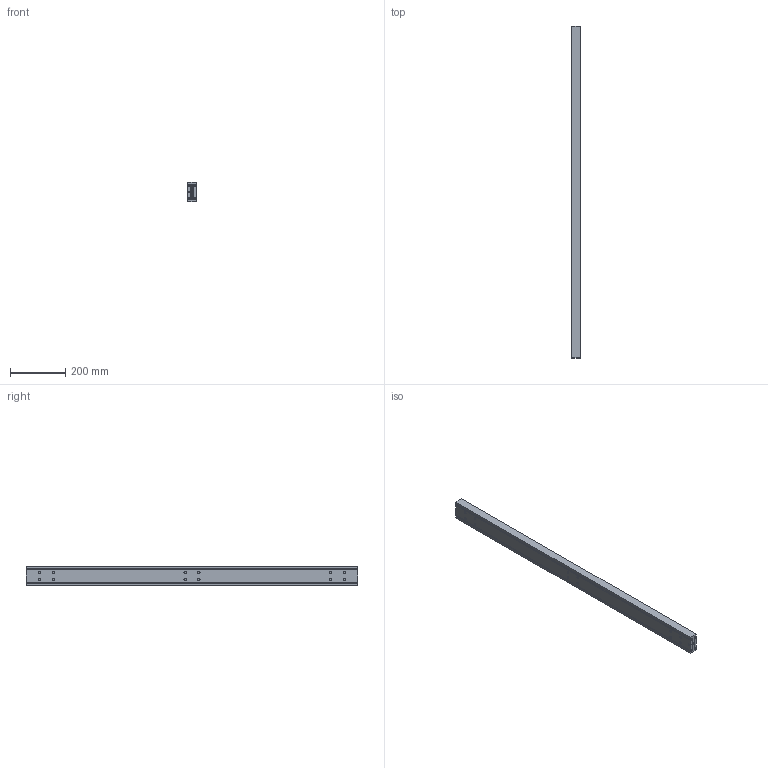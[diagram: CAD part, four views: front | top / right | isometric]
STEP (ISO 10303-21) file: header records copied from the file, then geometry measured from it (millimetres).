
FILE_DESCRIPTION(/* description */ (''),/* implementation_level */ '2;1');
FILE_NAME(/* name */ 'D:\Zeichnungen Schienen Komplett\MX-DTP70\MX-DTP70.120\MX-DTP70.120_eingefahren.step',/* time_stamp */ '2022-03-03T12:12:17+01:00',/* author */ ('zmile'),/* organization */ (''),/* preprocessor_version */ 'ST-DEVELOPER v16.13',/* originating_system */ 'AutoCAD Mechanical',/* authorisation */ '');
FILE_SCHEMA (('AUTOMOTIVE_DESIGN { 1 0 10303 214 3 1 1 }'));
Length unit declared in the file: millimetre
Products named in the file (1): Product
Bounding box: 32 x 1200 x 70 mm (x, y, z)
Volume: 2050925.6 mm3; surface area: 752779.4 mm2
Topology: 81 solids, 83 shells, 210 faces, 732 edges, 536 vertices
Faces by surface type: plane 82, sphere 76, cylinder 38, bspline 8, torus 6
Full cylindrical faces by diameter (mm): 8 x24, 13 x2
Entity records: 13851 total; most frequent: CARTESIAN_POINT 7747, DIRECTION 1250, ORIENTED_EDGE 908, EDGE_CURVE 546, VERTEX_POINT 534, AXIS2_PLACEMENT_3D 519, EDGE_LOOP 446, CIRCLE 312
